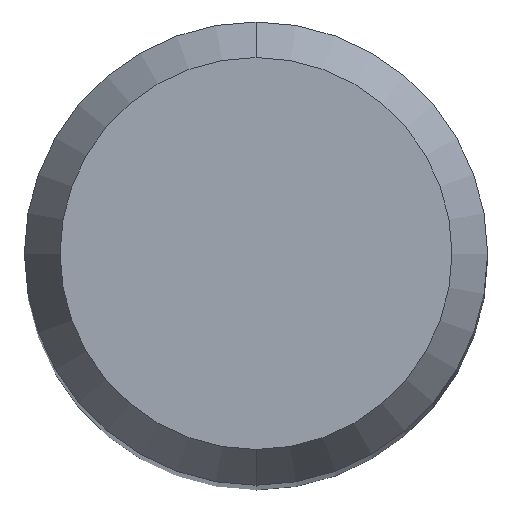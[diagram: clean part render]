
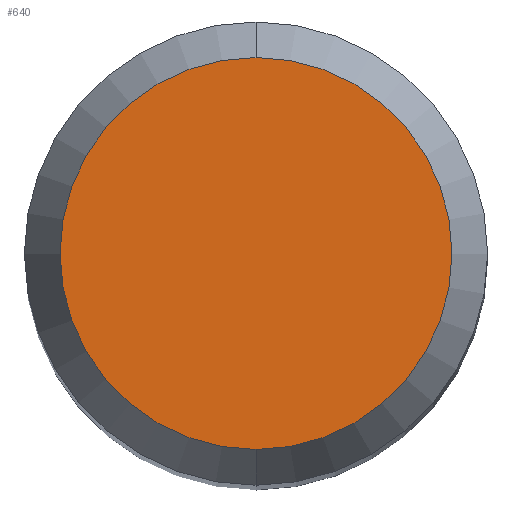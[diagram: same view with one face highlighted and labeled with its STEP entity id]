
A CAD part, top view. The second image highlights one B-rep face of the part: STEP entity #640.
In plain terms, the highlighted planar face has unit normal (0, 0, 1).
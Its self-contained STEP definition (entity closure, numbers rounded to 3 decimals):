
#640=ADVANCED_FACE('',(#1858),#1859,.T.);
#642=VERTEX_POINT('',#1861);
#730=EDGE_CURVE('',#642,#998,#1955,.T.);
#762=EDGE_CURVE('',#998,#642,#1988,.T.);
#998=VERTEX_POINT('',#2246);
#1858=FACE_OUTER_BOUND('',#3220,.T.);
#1859=PLANE('',#3221);
#1861=CARTESIAN_POINT('',(0.0,2.538,0.0));
#1955=CIRCLE('',#3883,2.538);
#1988=CIRCLE('',#4056,2.538);
#2246=CARTESIAN_POINT('',(0.,-2.538,0.0));
#3220=EDGE_LOOP('',(#15804,#15805));
#3221=AXIS2_PLACEMENT_3D('',#15806,#15807,#15808);
#3883=AXIS2_PLACEMENT_3D('',#15923,#15924,#15925);
#4056=AXIS2_PLACEMENT_3D('',#15949,#15950,#15951);
#15804=ORIENTED_EDGE('',*,*,#730,.F.);
#15805=ORIENTED_EDGE('',*,*,#762,.F.);
#15806=CARTESIAN_POINT('',(0.0,1.269,0.0));
#15807=DIRECTION('',(-0.0,0.0,1.0));
#15808=DIRECTION('',(0.0,-1.0,0.0));
#15923=CARTESIAN_POINT('',(0.0,0.0,0.0));
#15924=DIRECTION('',(0.0,0.0,-1.0));
#15925=DIRECTION('',(0.0,1.0,0.0));
#15949=CARTESIAN_POINT('',(0.0,0.0,0.0));
#15950=DIRECTION('',(0.0,0.0,-1.0));
#15951=DIRECTION('',(0.0,1.0,0.0));
